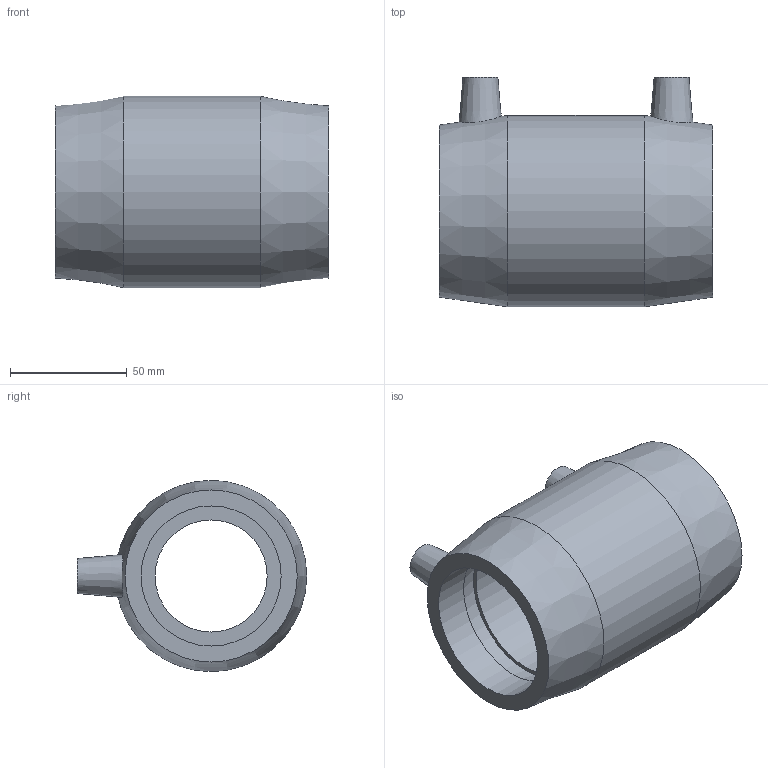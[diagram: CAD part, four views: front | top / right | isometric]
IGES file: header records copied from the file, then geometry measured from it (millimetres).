
Global section: file name: (_AS)5901B004020.ipt; native system: Autodesk Inventor 2019; preprocessor: unknown; author: KIM; date: 20210830.100838; units: inch
Bounding box: 117.09 x 98.42 x 82.04 mm (x, y, z)
Volume: 263957.8 mm3; surface area: 60175.5 mm2
Topology: 1 solids, 1 shells, 28 faces, 64 edges, 46 vertices
Faces by surface type: plane 12, revolution 9, cone 4, cylinder 3
Full cylindrical faces by diameter (mm): 4 x2, 82.042 x1
